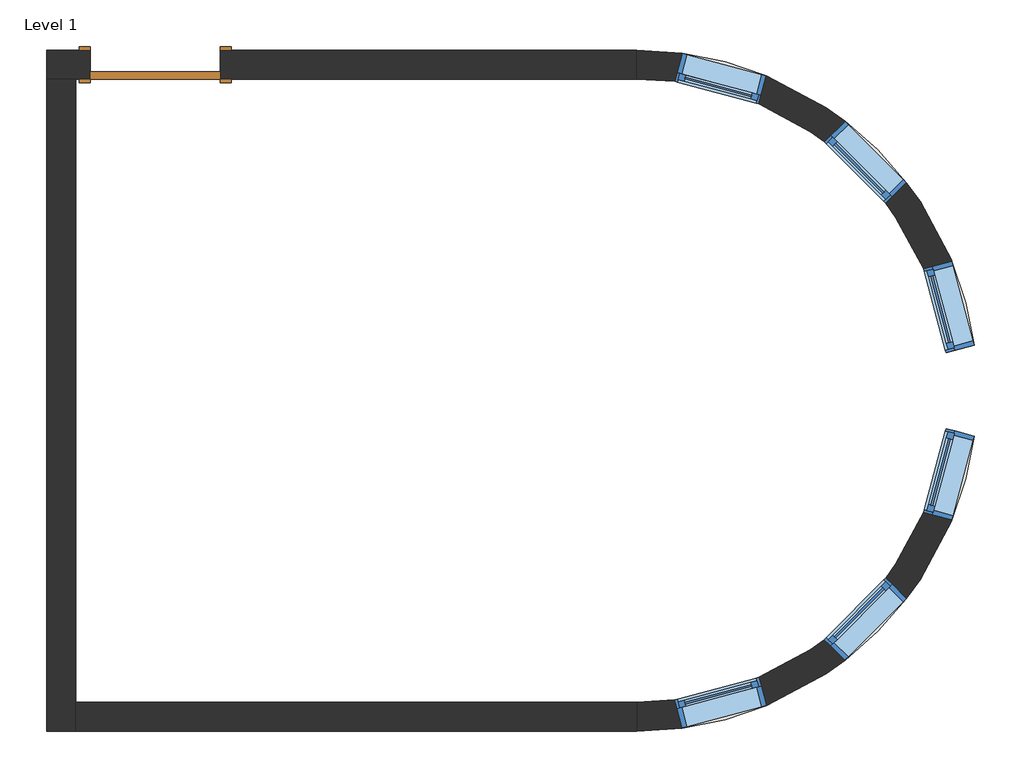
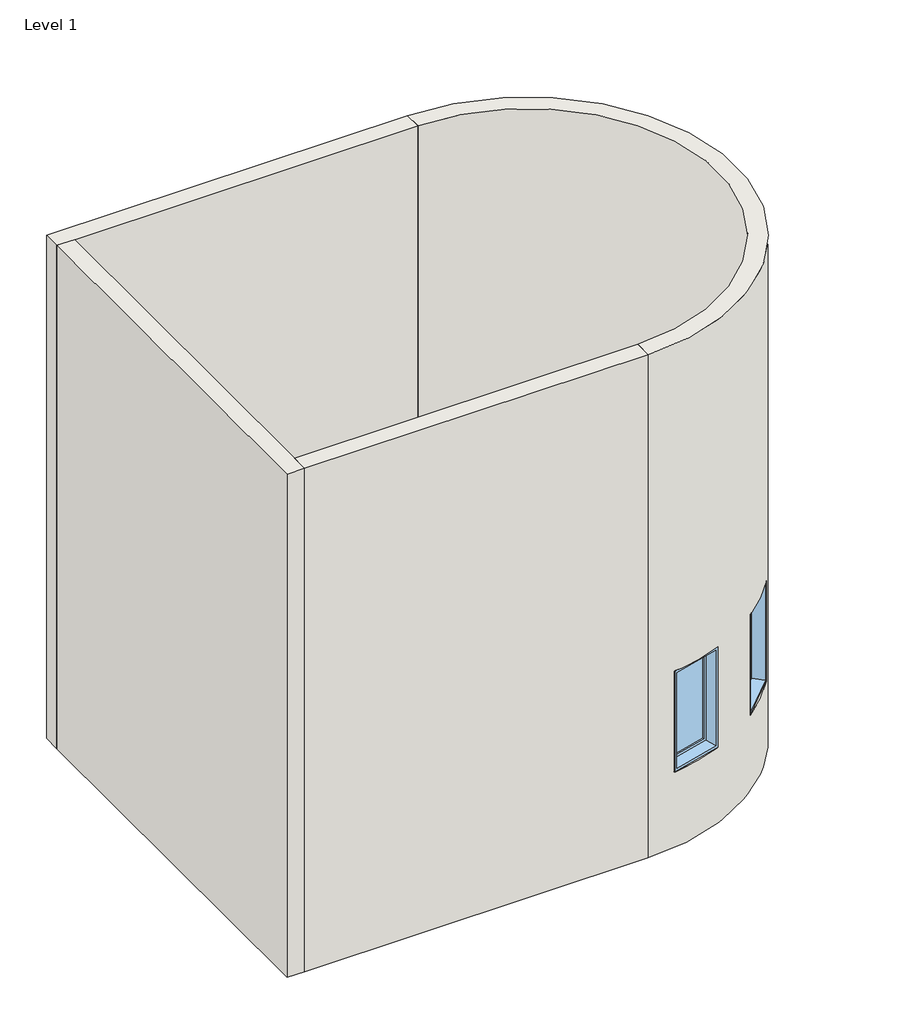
# One storey: 6 windows, 4 walls, 1 door.
"""IFC4 building model written with IfcOpenShell, lengths in millimetres."""

from ifc_helpers import new_model, si_unit, frame, origin, origin_with_axes, place, context, project, spatial, polyline, circle_curve, outline, extrude, faceted_brep, transform, mapped, element, save
from ifc_brep_helpers import plane_surface, cylinder_surface, revolved_surface, advanced_brep
from components import door_54dd4da4, window_80bd9af0

model = new_model("IFC4")

# Units and contexts
model_context = context("Model", 3, world=origin())
ifc_project = project(units=[si_unit("LENGTHUNIT", "METRE", prefix="MILLI")], contexts=[model_context])

# Site, building, storey
site = spatial("IfcSite", under=ifc_project)
building = spatial("IfcBuilding", under=site)
storey = spatial("IfcBuildingStorey", under=building, Name="Level 1", Elevation=0.0)

# Door
placement = place(None, origin())
door_shape = door_54dd4da4(model_context)
element("IfcDoor", 1, ObjectType="Single-Flush : 36\" x 84\"", at=placement, inside=storey, context=model_context, shape_type="MappedRepresentation", body=[
    mapped(door_shape, transform((1966.693003, 1768.4388617, 0.0), x_axis=(-1.0, 0.0, 0.0), y_axis=(0.0, -1.0, 0.0), z_axis=(0.0, 0.0, 1.0))),
])

# Walls
element("IfcWall", 2, ObjectType="Generic - 8\"", at=placement, inside=storey, context=model_context, shape_type="Brep", body=[
    faceted_brep([(1204.693003, 1666.8388617, 0.0), (1407.893003, 1666.8388617, 0.0), (1509.493003, 1666.8388617, 0.0), (1509.493003, 1666.8388617, 2133.6), (2423.893003, 1666.8388617, 2133.6), (2423.893003, 1666.8388617, 0.0), (5344.893003, 1666.8388617, 0.0), (5344.893003, 1666.8388617, 6096.0), (1407.893003, 1666.8388617, 6096.0), (1204.693003, 1666.8388617, 6096.0), (1509.493003, 1870.0388617, 2133.6), (1509.493003, 1870.0388617, 0.0), (1204.693003, 1870.0388617, 0.0), (1204.693003, 1870.0388617, 6096.0), (5344.893003, 1870.0388617, 6096.0), (5344.893003, 1870.0388617, 0.0), (2423.893003, 1870.0388617, 0.0), (2423.893003, 1870.0388617, 2133.6)], [[[0, 1, 2, 3, 4, 5, 6, 7, 8, 9]], [[10, 11, 12, 13, 14, 15, 16, 17]], [[12, 11, 2, 1, 0]], [[16, 15, 6, 5]], [[7, 6, 15, 14]], [[9, 8, 7, 14, 13]], [[0, 9, 13, 12]], [[3, 2, 11, 10]], [[4, 3, 10, 17]], [[5, 4, 17, 16]]]),
])
element("IfcWall", 3, ObjectType="Generic - 8\"", at=placement, inside=storey, context=model_context, shape_type="Brep", body=[
    faceted_brep([(1407.893003, -2905.1611383, 0.0), (1407.893003, -2701.9611383, 0.0), (1407.893003, 1666.8388617, 0.0), (1407.893003, 1666.8388617, 6096.0), (1407.893003, -2701.9611383, 6096.0), (1407.893003, -2905.1611383, 6096.0), (1204.693003, -2905.1611383, 0.0), (1204.693003, -2905.1611383, 6096.0), (1204.693003, 1666.8388617, 6096.0), (1204.693003, 1666.8388617, 0.0)], [[[0, 1, 2, 3, 4, 5]], [[6, 7, 8, 9]], [[2, 1, 0, 6, 9]], [[5, 4, 3, 8, 7]], [[0, 5, 7, 6]], [[3, 2, 9, 8]]]),
])
element("IfcWall", 4, ObjectType="Generic - 8\"", at=placement, inside=storey, context=model_context, shape_type="SweptSolid", body=[
    extrude(outline(polyline([(5344.893003, -2905.1611383), (1407.893003, -2905.1611383), (1407.893003, -2701.9611383), (5344.893003, -2701.9611383), (5344.893003, -2905.1611383)])), origin_with_axes(), (0.0, 0.0, 1.0), 6096.0),
])
element("IfcWall", 5, ObjectType="Generic - 8\"", at=placement, inside=storey, context=model_context, shape_type="AdvancedBrep", body=[
    advanced_brep(
    [(5344.893003, 1666.8388617, 6096.0), (5344.893003, -2701.9611383, 6096.0), (5344.893003, -2905.1611383, 6096.0), (5344.893003, 1870.0388617, 6096.0), (5344.893003, -2701.9611383, 0.0), (5344.893003, 1666.8388617, 0.0), (5344.893003, 1870.0388617, 0.0), (5344.893003, -2905.1611383, 0.0), (5610.3122623, 1650.6537903, 914.4), (5610.3122623, 1650.6537903, 2133.6), (6199.140646, 1492.8777005, 2133.6), (6199.140646, 1492.8777005, 914.4), (6199.140646, -2527.999977, 914.4), (6199.140646, -2527.999977, 2133.6), (5610.3122623, -2685.7760669, 2133.6), (5610.3122623, -2685.7760669, 914.4), (6658.8602886, 1227.4584411, 2133.6), (7089.9125824, 796.4061473, 2133.6), (7089.9125824, 796.4061473, 914.4), (6658.8602886, 1227.4584411, 914.4), (7355.3318417, 336.6865048, 2133.6), (7513.1079316, -252.1418789, 2133.6), (7513.1079316, -252.1418789, 914.4), (7355.3318417, 336.6865048, 914.4), (7513.1079316, -782.9803976, 2133.6), (7355.3318417, -1371.8087814, 2133.6), (7355.3318417, -1371.8087814, 914.4), (7513.1079316, -782.9803976, 914.4), (7089.9125824, -1831.5284239, 2133.6), (6658.8602886, -2262.5807177, 2133.6), (6658.8602886, -2262.5807177, 914.4), (7089.9125824, -1831.5284239, 914.4), (5663.3790717, 1848.7018192, 2133.6), (5663.3790717, 1848.7018192, 914.4), (6252.2074554, 1690.9257293, 914.4), (6252.2074554, 1690.9257293, 2133.6), (6252.2074554, -2726.0480059, 2133.6), (6252.2074554, -2726.0480059, 914.4), (5663.3790717, -2883.8240958, 914.4), (5663.3790717, -2883.8240958, 2133.6), (6803.841508, 1372.4396606, 2133.6), (6803.841508, 1372.4396606, 914.4), (7234.8938018, 941.3873667, 914.4), (7234.8938018, 941.3873667, 2133.6), (7553.3798706, 389.7533142, 2133.6), (7553.3798706, 389.7533142, 914.4), (7711.1559605, -199.0750695, 914.4), (7711.1559605, -199.0750695, 2133.6), (7711.1559605, -836.047207, 2133.6), (7711.1559605, -836.047207, 914.4), (7553.3798706, -1424.8755907, 914.4), (7553.3798706, -1424.8755907, 2133.6), (7234.8938018, -1976.5096433, 2133.6), (7234.8938018, -1976.5096433, 914.4), (6803.841508, -2407.5619371, 914.4), (6803.841508, -2407.5619371, 2133.6)],
    [
        (0, 1, circle_curve(frame((5344.893003, -517.5611383, 6096.0), z_axis=(0.0, 0.0, -1.0), x_axis=(1.0, 0.0, 0.0)), 2184.4)),
        (1, 2),
        (2, 3, circle_curve(frame((5344.893003, -517.5611383, 6096.0), z_axis=(0.0, 0.0, 1.0), x_axis=(1.0, 0.0, 0.0)), 2387.6)),
        (3, 0),
        (4, 5, circle_curve(frame((5344.893003, -517.5611383, 0.0), z_axis=(0.0, 0.0, 1.0), x_axis=(1.0, 0.0, 0.0)), 2184.4)),
        (5, 6),
        (6, 7, circle_curve(frame((5344.893003, -517.5611383, 0.0), z_axis=(0.0, 0.0, -1.0), x_axis=(1.0, 0.0, 0.0)), 2387.6)),
        (7, 4),
        (0, 5),
        (4, 1),
        (8, 9),
        (9, 10, circle_curve(frame((5344.893003, -517.5611383, 2133.6), z_axis=(0.0, 0.0, -1.0), x_axis=(1.0, 0.0, 0.0)), 2184.4)),
        (10, 11),
        (11, 8, circle_curve(frame((5344.893003, -517.5611383, 914.4), z_axis=(0.0, 0.0, 1.0), x_axis=(1.0, 0.0, 0.0)), 2184.4)),
        (12, 13),
        (13, 14, circle_curve(frame((5344.893003, -517.5611383, 2133.6), z_axis=(0.0, 0.0, -1.0), x_axis=(1.0, 0.0, 0.0)), 2184.4)),
        (14, 15),
        (15, 12, circle_curve(frame((5344.893003, -517.5611383, 914.4), z_axis=(0.0, 0.0, 1.0), x_axis=(1.0, 0.0, 0.0)), 2184.4)),
        (16, 17, circle_curve(frame((5344.893003, -517.5611383, 2133.6), z_axis=(0.0, 0.0, -1.0), x_axis=(1.0, 0.0, 0.0)), 2184.4)),
        (17, 18),
        (18, 19, circle_curve(frame((5344.893003, -517.5611383, 914.4), z_axis=(0.0, 0.0, 1.0), x_axis=(1.0, 0.0, 0.0)), 2184.4)),
        (19, 16),
        (20, 21, circle_curve(frame((5344.893003, -517.5611383, 2133.6), z_axis=(0.0, 0.0, -1.0), x_axis=(1.0, 0.0, 0.0)), 2184.4)),
        (21, 22),
        (22, 23, circle_curve(frame((5344.893003, -517.5611383, 914.4), z_axis=(0.0, 0.0, 1.0), x_axis=(1.0, 0.0, 0.0)), 2184.4)),
        (23, 20),
        (24, 25, circle_curve(frame((5344.893003, -517.5611383, 2133.6), z_axis=(0.0, 0.0, -1.0), x_axis=(1.0, 0.0, 0.0)), 2184.4)),
        (25, 26),
        (26, 27, circle_curve(frame((5344.893003, -517.5611383, 914.4), z_axis=(0.0, 0.0, 1.0), x_axis=(1.0, 0.0, 0.0)), 2184.4)),
        (27, 24),
        (28, 29, circle_curve(frame((5344.893003, -517.5611383, 2133.6), z_axis=(0.0, 0.0, -1.0), x_axis=(1.0, 0.0, 0.0)), 2184.4)),
        (29, 30),
        (30, 31, circle_curve(frame((5344.893003, -517.5611383, 914.4), z_axis=(0.0, 0.0, 1.0), x_axis=(1.0, 0.0, 0.0)), 2184.4)),
        (31, 28),
        (7, 2),
        (6, 3),
        (32, 33),
        (33, 34, circle_curve(frame((5344.893003, -517.5611383, 914.4), z_axis=(0.0, 0.0, -1.0), x_axis=(1.0, 0.0, 0.0)), 2387.6)),
        (34, 35),
        (35, 32, circle_curve(frame((5344.893003, -517.5611383, 2133.6), z_axis=(0.0, 0.0, 1.0), x_axis=(1.0, 0.0, 0.0)), 2387.6)),
        (36, 37),
        (37, 38, circle_curve(frame((5344.893003, -517.5611383, 914.4), z_axis=(0.0, 0.0, -1.0), x_axis=(1.0, 0.0, 0.0)), 2387.6)),
        (38, 39),
        (39, 36, circle_curve(frame((5344.893003, -517.5611383, 2133.6), z_axis=(0.0, 0.0, 1.0), x_axis=(1.0, 0.0, 0.0)), 2387.6)),
        (40, 41),
        (41, 42, circle_curve(frame((5344.893003, -517.5611383, 914.4), z_axis=(0.0, 0.0, -1.0), x_axis=(1.0, 0.0, 0.0)), 2387.6)),
        (42, 43),
        (43, 40, circle_curve(frame((5344.893003, -517.5611383, 2133.6), z_axis=(0.0, 0.0, 1.0), x_axis=(1.0, 0.0, 0.0)), 2387.6)),
        (44, 45),
        (45, 46, circle_curve(frame((5344.893003, -517.5611383, 914.4), z_axis=(0.0, 0.0, -1.0), x_axis=(1.0, 0.0, 0.0)), 2387.6)),
        (46, 47),
        (47, 44, circle_curve(frame((5344.893003, -517.5611383, 2133.6), z_axis=(0.0, 0.0, 1.0), x_axis=(1.0, 0.0, 0.0)), 2387.6)),
        (48, 49),
        (49, 50, circle_curve(frame((5344.893003, -517.5611383, 914.4), z_axis=(0.0, 0.0, -1.0), x_axis=(1.0, 0.0, 0.0)), 2387.6)),
        (50, 51),
        (51, 48, circle_curve(frame((5344.893003, -517.5611383, 2133.6), z_axis=(0.0, 0.0, 1.0), x_axis=(1.0, 0.0, 0.0)), 2387.6)),
        (52, 53),
        (53, 54, circle_curve(frame((5344.893003, -517.5611383, 914.4), z_axis=(0.0, 0.0, -1.0), x_axis=(1.0, 0.0, 0.0)), 2387.6)),
        (54, 55),
        (55, 52, circle_curve(frame((5344.893003, -517.5611383, 2133.6), z_axis=(0.0, 0.0, 1.0), x_axis=(1.0, 0.0, 0.0)), 2387.6)),
        (32, 9),
        (8, 33),
        (11, 34),
        (10, 35),
        (36, 13),
        (12, 37),
        (15, 38),
        (14, 39),
        (40, 16),
        (19, 41),
        (18, 42),
        (17, 43),
        (44, 20),
        (23, 45),
        (22, 46),
        (21, 47),
        (48, 24),
        (27, 49),
        (26, 50),
        (25, 51),
        (52, 28),
        (31, 53),
        (30, 54),
        (29, 55),
    ],
    [
        plane_surface(frame((7529.293003, -517.5611383, 6096.0), z_axis=(0.0, 0.0, 1.0), x_axis=(0.0, -1.0, 0.0))),
        plane_surface(frame((7529.293003, -517.5611383, 0.0), z_axis=(0.0, 0.0, -1.0), x_axis=(0.0, 1.0, 0.0))),
        revolved_surface(polyline([(7529.293003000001, -517.5611383, 0.0), (7529.293003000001, -517.5611383, 6096.0)]), (5344.893003, -517.5611383, 0.0), (0.0, 0.0, -1.0)),
        plane_surface(frame((5344.893003, -2701.9611383, 6096.0), z_axis=(-1.0, 0.0, 0.0), x_axis=(0.0, 0.0, -1.0))),
        cylinder_surface(frame((5344.893003, -517.5611383, 0.0), z_axis=(0.0, 0.0, 1.0), x_axis=(1.0, 0.0, 0.0)), 2387.6),
        plane_surface(frame((5344.893003, 1870.0388617, 6096.0), z_axis=(-1.0, 0.0, 0.0), x_axis=(0.0, 0.0, -1.0))),
        plane_surface(frame((5663.3790717, 1848.7018192, 2133.6), z_axis=(0.9659258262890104, -0.2588190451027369, 0.0), x_axis=(-0.2588190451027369, -0.9659258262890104, 0.0))),
        plane_surface(frame((5663.3790717, 1848.7018192, 914.4), z_axis=(0.0, 0.0, 1.0), x_axis=(-0.2588190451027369, -0.9659258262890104, 0.0))),
        plane_surface(frame((6252.2074554, 1690.9257293, 914.4), z_axis=(-0.9659258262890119, 0.258819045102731, 0.0), x_axis=(-0.258819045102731, -0.9659258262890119, 0.0))),
        plane_surface(frame((6252.2074554, 1690.9257293, 2133.6), z_axis=(0.0, 0.0, -1.0), x_axis=(-0.258819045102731, -0.9659258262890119, 0.0))),
        plane_surface(frame((5857.2924513, -1252.2051457, 2133.6), z_axis=(-0.9659258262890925, -0.2588190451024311, 0.0), x_axis=(0.2588190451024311, -0.9659258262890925, 0.0))),
        plane_surface(frame((5857.2924513, -1252.2051457, 914.4), z_axis=(0.0, 0.0, 1.0000000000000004), x_axis=(0.2588190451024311, -0.9659258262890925, 0.0))),
        plane_surface(frame((5268.4640676, -1409.9812356, 914.4), z_axis=(0.9659258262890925, 0.2588190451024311, 0.0), x_axis=(0.2588190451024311, -0.9659258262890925, 0.0))),
        plane_surface(frame((5268.4640676, -1409.9812356, 2133.6), z_axis=(0.0, 0.0, -1.0000000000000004), x_axis=(0.2588190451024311, -0.9659258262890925, 0.0))),
        plane_surface(frame((6803.841508, 1372.4396606, 2133.6), z_axis=(0.7071067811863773, -0.7071067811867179, 0.0), x_axis=(-0.7071067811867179, -0.7071067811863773, 0.0))),
        plane_surface(frame((6803.841508, 1372.4396606, 914.4), z_axis=(0.0, 0.0, 1.0), x_axis=(-0.7071067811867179, -0.7071067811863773, 0.0))),
        plane_surface(frame((7234.8938018, 941.3873667, 914.4), z_axis=(-0.7071067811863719, 0.7071067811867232, 0.0), x_axis=(-0.7071067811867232, -0.7071067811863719, 0.0))),
        plane_surface(frame((7234.8938018, 941.3873667, 2133.6), z_axis=(0.0, 0.0, -1.0000000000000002), x_axis=(-0.7071067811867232, -0.7071067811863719, 0.0))),
        plane_surface(frame((7553.3798706, 389.7533142, 2133.6), z_axis=(0.25881904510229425, -0.9659258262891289, 0.0), x_axis=(-0.9659258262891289, -0.25881904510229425, 0.0))),
        plane_surface(frame((7553.3798706, 389.7533142, 914.4), z_axis=(0.0, 0.0, 0.9999999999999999), x_axis=(-0.9659258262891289, -0.25881904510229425, 0.0))),
        plane_surface(frame((7711.1559605, -199.0750695, 914.4), z_axis=(-0.25881904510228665, 0.9659258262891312, 0.0), x_axis=(-0.9659258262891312, -0.25881904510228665, 0.0))),
        plane_surface(frame((7711.1559605, -199.0750695, 2133.6), z_axis=(0.0, 0.0, -1.0000000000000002), x_axis=(-0.9659258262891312, -0.25881904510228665, 0.0))),
        plane_surface(frame((7711.1559605, -836.047207, 2133.6), z_axis=(-0.25881904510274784, -0.9659258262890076, 0.0), x_axis=(-0.9659258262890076, 0.25881904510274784, 0.0))),
        plane_surface(frame((7711.1559605, -836.047207, 914.4), z_axis=(0.0, 0.0, 1.0000000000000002), x_axis=(-0.9659258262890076, 0.25881904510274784, 0.0))),
        plane_surface(frame((7553.3798706, -1424.8755907, 914.4), z_axis=(0.2588190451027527, 0.9659258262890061, 0.0), x_axis=(-0.9659258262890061, 0.2588190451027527, 0.0))),
        plane_surface(frame((7553.3798706, -1424.8755907, 2133.6), z_axis=(0.0, 0.0, -1.0), x_axis=(-0.9659258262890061, 0.2588190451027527, 0.0))),
        plane_surface(frame((7234.8938018, -1976.5096433, 2133.6), z_axis=(-0.7071067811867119, -0.7071067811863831, 0.0), x_axis=(-0.7071067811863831, 0.7071067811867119, 0.0))),
        plane_surface(frame((7234.8938018, -1976.5096433, 914.4), z_axis=(0.0, 0.0, 1.0), x_axis=(-0.7071067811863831, 0.7071067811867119, 0.0))),
        plane_surface(frame((6803.841508, -2407.5619371, 914.4), z_axis=(0.7071067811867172, 0.7071067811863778, 0.0), x_axis=(-0.7071067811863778, 0.7071067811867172, 0.0))),
        plane_surface(frame((6803.841508, -2407.5619371, 2133.6), z_axis=(0.0, 0.0, -1.0), x_axis=(-0.7071067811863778, 0.7071067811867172, 0.0))),
    ],
    [
        (0, [[1, 2, 3, 4]]),
        (1, [[5, 6, 7, 8]]),
        (2, [[-1, 9, -5, 10], [11, 12, 13, 14], [15, 16, 17, 18], [19, 20, 21, 22], [23, 24, 25, 26], [27, 28, 29, 30], [31, 32, 33, 34]]),
        (3, [[-2, -10, -8, 35]]),
        (4, [[-3, -35, -7, 36], [37, 38, 39, 40], [41, 42, 43, 44], [45, 46, 47, 48], [49, 50, 51, 52], [53, 54, 55, 56], [57, 58, 59, 60]]),
        (5, [[-4, -36, -6, -9]]),
        (6, [[-37, 61, -11, 62]]),
        (7, [[-38, -62, -14, 63]]),
        (8, [[-39, -63, -13, 64]]),
        (9, [[-40, -64, -12, -61]]),
        (10, [[65, -15, 66, -41]]),
        (11, [[-66, -18, 67, -42]]),
        (12, [[-67, -17, 68, -43]]),
        (13, [[-65, -44, -68, -16]]),
        (14, [[-45, 69, -22, 70]]),
        (15, [[-46, -70, -21, 71]]),
        (16, [[-47, -71, -20, 72]]),
        (17, [[-48, -72, -19, -69]]),
        (18, [[-49, 73, -26, 74]]),
        (19, [[-50, -74, -25, 75]]),
        (20, [[-51, -75, -24, 76]]),
        (21, [[-52, -76, -23, -73]]),
        (22, [[-53, 77, -30, 78]]),
        (23, [[-54, -78, -29, 79]]),
        (24, [[-55, -79, -28, 80]]),
        (25, [[-56, -80, -27, -77]]),
        (26, [[-57, 81, -34, 82]]),
        (27, [[-58, -82, -33, 83]]),
        (28, [[-59, -83, -32, 84]]),
        (29, [[-60, -84, -31, -81]]),
    ],
),
])

# Windows
window_shape = window_80bd9af0(model_context)
element("IfcWindow", 6, ObjectType="Fixed : 24\" x 48\"", at=placement, inside=storey, context=model_context, shape_type="MappedRepresentation", body=[
    mapped(window_shape, transform((5894.2206952, 1679.764815, 0.0), x_axis=(-0.9659258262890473, 0.25881904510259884, 0.0), y_axis=(-0.25881904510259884, -0.9659258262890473, 0.0), z_axis=(0.0, 0.0, 1.0))),
])
element("IfcWindow", 7, ObjectType="Fixed : 24\" x 48\"", at=placement, inside=storey, context=model_context, shape_type="MappedRepresentation", body=[
    mapped(window_shape, transform((5967.8242432, -2695.1650803, 0.0), x_axis=(0.9659258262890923, 0.2588190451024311, 0.0), y_axis=(-0.2588190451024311, 0.9659258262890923, 0.0), z_axis=(0.0, 0.0, 1.0))),
])
element("IfcWindow", 8, ObjectType="Fixed : 24\" x 48\"", at=placement, inside=storey, context=model_context, shape_type="MappedRepresentation", body=[
    mapped(window_shape, transform((6919.2877161, 1110.7151115, 0.0), x_axis=(-0.7071067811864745, 0.7071067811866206, 0.0), y_axis=(-0.7071067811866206, -0.7071067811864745, 0.0), z_axis=(0.0, 0.0, 1.0))),
])
element("IfcWindow", 9, ObjectType="Fixed : 24\" x 48\"", at=placement, inside=storey, context=model_context, shape_type="MappedRepresentation", body=[
    mapped(window_shape, transform((7522.496945, 105.3701019, 0.0), x_axis=(-0.2588190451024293, 0.9659258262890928, 0.0), y_axis=(-0.9659258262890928, -0.2588190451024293, 0.0), z_axis=(0.0, 0.0, 1.0))),
])
element("IfcWindow", 10, ObjectType="Fixed : 24\" x 48\"", at=placement, inside=storey, context=model_context, shape_type="MappedRepresentation", body=[
    mapped(window_shape, transform((7542.2189562, -1066.8888305, 0.0), x_axis=(0.2588190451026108, 0.9659258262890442, 0.0), y_axis=(-0.9659258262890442, 0.2588190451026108, 0.0), z_axis=(0.0, 0.0, 1.0))),
])
element("IfcWindow", 11, ObjectType="Fixed : 24\" x 48\"", at=placement, inside=storey, context=model_context, shape_type="MappedRepresentation", body=[
    mapped(window_shape, transform((6973.1692528, -2091.9558514, 0.0), x_axis=(0.7071067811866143, 0.7071067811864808, 0.0), y_axis=(-0.7071067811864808, 0.7071067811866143, 0.0), z_axis=(0.0, 0.0, 1.0))),
])

save(model, "model.ifc")
